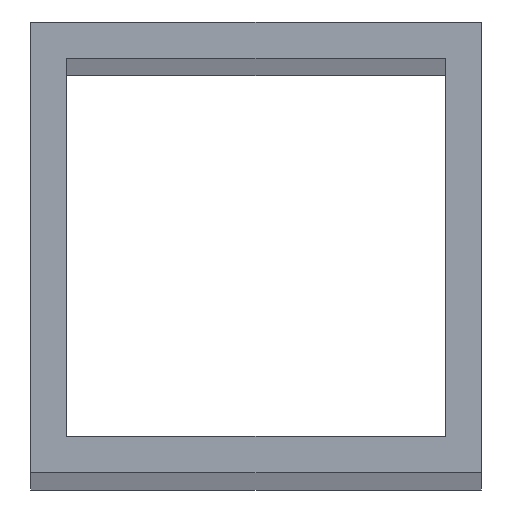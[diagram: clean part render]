
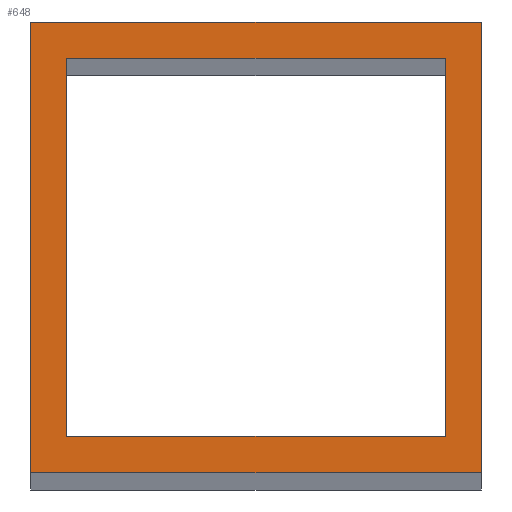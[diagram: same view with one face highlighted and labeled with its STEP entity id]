
A CAD part, top view. The second image highlights one B-rep face of the part: STEP entity #648.
In plain terms, the highlighted planar face has unit normal (0, 0, 1).
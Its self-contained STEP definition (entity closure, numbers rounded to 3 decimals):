
#24 = VERTEX_POINT('',#25);
#25 = CARTESIAN_POINT('',(-25.,-25.,1110.));
#32 = PLANE('',#33);
#33 = AXIS2_PLACEMENT_3D('',#34,#35,#36);
#34 = CARTESIAN_POINT('',(-25.,-25.,0.));
#35 = DIRECTION('',(0.,1.,0.));
#36 = DIRECTION('',(1.,0.,0.));
#44 = PLANE('',#45);
#45 = AXIS2_PLACEMENT_3D('',#46,#47,#48);
#46 = CARTESIAN_POINT('',(-25.,25.,0.));
#47 = DIRECTION('',(1.,0.,-0.));
#48 = DIRECTION('',(0.,-1.,0.));
#56 = EDGE_CURVE('',#24,#57,#59,.T.);
#57 = VERTEX_POINT('',#58);
#58 = CARTESIAN_POINT('',(25.,-25.,1110.));
#59 = SURFACE_CURVE('',#60,(#64,#71),.PCURVE_S1.);
#60 = LINE('',#61,#62);
#61 = CARTESIAN_POINT('',(-25.,-25.,1110.));
#62 = VECTOR('',#63,1.);
#63 = DIRECTION('',(1.,0.,0.));
#64 = PCURVE('',#32,#65);
#65 = DEFINITIONAL_REPRESENTATION('',(#66),#70);
#66 = LINE('',#67,#68);
#67 = CARTESIAN_POINT('',(0.,-1110.));
#68 = VECTOR('',#69,1.);
#69 = DIRECTION('',(1.,0.));
#70 = ( GEOMETRIC_REPRESENTATION_CONTEXT(2) 
PARAMETRIC_REPRESENTATION_CONTEXT() REPRESENTATION_CONTEXT('2D SPACE',''
  ) );
#71 = PCURVE('',#72,#77);
#72 = PLANE('',#73);
#73 = AXIS2_PLACEMENT_3D('',#74,#75,#76);
#74 = CARTESIAN_POINT('',(0.,0.,1110.));
#75 = DIRECTION('',(0.,0.,1.));
#76 = DIRECTION('',(1.,0.,-0.));
#77 = DEFINITIONAL_REPRESENTATION('',(#78),#82);
#78 = LINE('',#79,#80);
#79 = CARTESIAN_POINT('',(-25.,-25.));
#80 = VECTOR('',#81,1.);
#81 = DIRECTION('',(1.,0.));
#82 = ( GEOMETRIC_REPRESENTATION_CONTEXT(2) 
PARAMETRIC_REPRESENTATION_CONTEXT() REPRESENTATION_CONTEXT('2D SPACE',''
  ) );
#100 = PLANE('',#101);
#101 = AXIS2_PLACEMENT_3D('',#102,#103,#104);
#102 = CARTESIAN_POINT('',(25.,-25.,0.));
#103 = DIRECTION('',(-1.,0.,0.));
#104 = DIRECTION('',(0.,1.,0.));
#142 = EDGE_CURVE('',#57,#143,#145,.T.);
#143 = VERTEX_POINT('',#144);
#144 = CARTESIAN_POINT('',(25.,25.,1110.));
#145 = SURFACE_CURVE('',#146,(#150,#157),.PCURVE_S1.);
#146 = LINE('',#147,#148);
#147 = CARTESIAN_POINT('',(25.,-25.,1110.));
#148 = VECTOR('',#149,1.);
#149 = DIRECTION('',(0.,1.,0.));
#150 = PCURVE('',#100,#151);
#151 = DEFINITIONAL_REPRESENTATION('',(#152),#156);
#152 = LINE('',#153,#154);
#153 = CARTESIAN_POINT('',(0.,-1110.));
#154 = VECTOR('',#155,1.);
#155 = DIRECTION('',(1.,0.));
#156 = ( GEOMETRIC_REPRESENTATION_CONTEXT(2) 
PARAMETRIC_REPRESENTATION_CONTEXT() REPRESENTATION_CONTEXT('2D SPACE',''
  ) );
#157 = PCURVE('',#72,#158);
#158 = DEFINITIONAL_REPRESENTATION('',(#159),#163);
#159 = LINE('',#160,#161);
#160 = CARTESIAN_POINT('',(25.,-25.));
#161 = VECTOR('',#162,1.);
#162 = DIRECTION('',(0.,1.));
#163 = ( GEOMETRIC_REPRESENTATION_CONTEXT(2) 
PARAMETRIC_REPRESENTATION_CONTEXT() REPRESENTATION_CONTEXT('2D SPACE',''
  ) );
#181 = PLANE('',#182);
#182 = AXIS2_PLACEMENT_3D('',#183,#184,#185);
#183 = CARTESIAN_POINT('',(25.,25.,0.));
#184 = DIRECTION('',(0.,-1.,0.));
#185 = DIRECTION('',(-1.,0.,0.));
#218 = EDGE_CURVE('',#143,#219,#221,.T.);
#219 = VERTEX_POINT('',#220);
#220 = CARTESIAN_POINT('',(-25.,25.,1110.));
#221 = SURFACE_CURVE('',#222,(#226,#233),.PCURVE_S1.);
#222 = LINE('',#223,#224);
#223 = CARTESIAN_POINT('',(25.,25.,1110.));
#224 = VECTOR('',#225,1.);
#225 = DIRECTION('',(-1.,0.,0.));
#226 = PCURVE('',#181,#227);
#227 = DEFINITIONAL_REPRESENTATION('',(#228),#232);
#228 = LINE('',#229,#230);
#229 = CARTESIAN_POINT('',(0.,-1110.));
#230 = VECTOR('',#231,1.);
#231 = DIRECTION('',(1.,0.));
#232 = ( GEOMETRIC_REPRESENTATION_CONTEXT(2) 
PARAMETRIC_REPRESENTATION_CONTEXT() REPRESENTATION_CONTEXT('2D SPACE',''
  ) );
#233 = PCURVE('',#72,#234);
#234 = DEFINITIONAL_REPRESENTATION('',(#235),#239);
#235 = LINE('',#236,#237);
#236 = CARTESIAN_POINT('',(25.,25.));
#237 = VECTOR('',#238,1.);
#238 = DIRECTION('',(-1.,0.));
#239 = ( GEOMETRIC_REPRESENTATION_CONTEXT(2) 
PARAMETRIC_REPRESENTATION_CONTEXT() REPRESENTATION_CONTEXT('2D SPACE',''
  ) );
#289 = EDGE_CURVE('',#219,#24,#290,.T.);
#290 = SURFACE_CURVE('',#291,(#295,#302),.PCURVE_S1.);
#291 = LINE('',#292,#293);
#292 = CARTESIAN_POINT('',(-25.,25.,1110.));
#293 = VECTOR('',#294,1.);
#294 = DIRECTION('',(0.,-1.,0.));
#295 = PCURVE('',#44,#296);
#296 = DEFINITIONAL_REPRESENTATION('',(#297),#301);
#297 = LINE('',#298,#299);
#298 = CARTESIAN_POINT('',(0.,-1110.));
#299 = VECTOR('',#300,1.);
#300 = DIRECTION('',(1.,0.));
#301 = ( GEOMETRIC_REPRESENTATION_CONTEXT(2) 
PARAMETRIC_REPRESENTATION_CONTEXT() REPRESENTATION_CONTEXT('2D SPACE',''
  ) );
#302 = PCURVE('',#72,#303);
#303 = DEFINITIONAL_REPRESENTATION('',(#304),#308);
#304 = LINE('',#305,#306);
#305 = CARTESIAN_POINT('',(-25.,25.));
#306 = VECTOR('',#307,1.);
#307 = DIRECTION('',(0.,-1.));
#308 = ( GEOMETRIC_REPRESENTATION_CONTEXT(2) 
PARAMETRIC_REPRESENTATION_CONTEXT() REPRESENTATION_CONTEXT('2D SPACE',''
  ) );
#338 = VERTEX_POINT('',#339);
#339 = CARTESIAN_POINT('',(-21.,-21.,1110.));
#346 = PLANE('',#347);
#347 = AXIS2_PLACEMENT_3D('',#348,#349,#350);
#348 = CARTESIAN_POINT('',(-21.,-21.,0.));
#349 = DIRECTION('',(0.,1.,0.));
#350 = DIRECTION('',(1.,0.,0.));
#358 = PLANE('',#359);
#359 = AXIS2_PLACEMENT_3D('',#360,#361,#362);
#360 = CARTESIAN_POINT('',(-21.,21.,0.));
#361 = DIRECTION('',(1.,0.,-0.));
#362 = DIRECTION('',(0.,-1.,0.));
#370 = EDGE_CURVE('',#338,#371,#373,.T.);
#371 = VERTEX_POINT('',#372);
#372 = CARTESIAN_POINT('',(21.,-21.,1110.));
#373 = SURFACE_CURVE('',#374,(#378,#385),.PCURVE_S1.);
#374 = LINE('',#375,#376);
#375 = CARTESIAN_POINT('',(-21.,-21.,1110.));
#376 = VECTOR('',#377,1.);
#377 = DIRECTION('',(1.,0.,0.));
#378 = PCURVE('',#346,#379);
#379 = DEFINITIONAL_REPRESENTATION('',(#380),#384);
#380 = LINE('',#381,#382);
#381 = CARTESIAN_POINT('',(0.,-1110.));
#382 = VECTOR('',#383,1.);
#383 = DIRECTION('',(1.,0.));
#384 = ( GEOMETRIC_REPRESENTATION_CONTEXT(2) 
PARAMETRIC_REPRESENTATION_CONTEXT() REPRESENTATION_CONTEXT('2D SPACE',''
  ) );
#385 = PCURVE('',#72,#386);
#386 = DEFINITIONAL_REPRESENTATION('',(#387),#391);
#387 = LINE('',#388,#389);
#388 = CARTESIAN_POINT('',(-21.,-21.));
#389 = VECTOR('',#390,1.);
#390 = DIRECTION('',(1.,0.));
#391 = ( GEOMETRIC_REPRESENTATION_CONTEXT(2) 
PARAMETRIC_REPRESENTATION_CONTEXT() REPRESENTATION_CONTEXT('2D SPACE',''
  ) );
#409 = PLANE('',#410);
#410 = AXIS2_PLACEMENT_3D('',#411,#412,#413);
#411 = CARTESIAN_POINT('',(21.,-21.,0.));
#412 = DIRECTION('',(-1.,0.,0.));
#413 = DIRECTION('',(0.,1.,0.));
#446 = EDGE_CURVE('',#371,#447,#449,.T.);
#447 = VERTEX_POINT('',#448);
#448 = CARTESIAN_POINT('',(21.,21.,1110.));
#449 = SURFACE_CURVE('',#450,(#454,#461),.PCURVE_S1.);
#450 = LINE('',#451,#452);
#451 = CARTESIAN_POINT('',(21.,-21.,1110.));
#452 = VECTOR('',#453,1.);
#453 = DIRECTION('',(0.,1.,0.));
#454 = PCURVE('',#409,#455);
#455 = DEFINITIONAL_REPRESENTATION('',(#456),#460);
#456 = LINE('',#457,#458);
#457 = CARTESIAN_POINT('',(0.,-1110.));
#458 = VECTOR('',#459,1.);
#459 = DIRECTION('',(1.,0.));
#460 = ( GEOMETRIC_REPRESENTATION_CONTEXT(2) 
PARAMETRIC_REPRESENTATION_CONTEXT() REPRESENTATION_CONTEXT('2D SPACE',''
  ) );
#461 = PCURVE('',#72,#462);
#462 = DEFINITIONAL_REPRESENTATION('',(#463),#467);
#463 = LINE('',#464,#465);
#464 = CARTESIAN_POINT('',(21.,-21.));
#465 = VECTOR('',#466,1.);
#466 = DIRECTION('',(0.,1.));
#467 = ( GEOMETRIC_REPRESENTATION_CONTEXT(2) 
PARAMETRIC_REPRESENTATION_CONTEXT() REPRESENTATION_CONTEXT('2D SPACE',''
  ) );
#485 = PLANE('',#486);
#486 = AXIS2_PLACEMENT_3D('',#487,#488,#489);
#487 = CARTESIAN_POINT('',(21.,21.,0.));
#488 = DIRECTION('',(0.,-1.,0.));
#489 = DIRECTION('',(-1.,0.,0.));
#522 = EDGE_CURVE('',#447,#523,#525,.T.);
#523 = VERTEX_POINT('',#524);
#524 = CARTESIAN_POINT('',(-21.,21.,1110.));
#525 = SURFACE_CURVE('',#526,(#530,#537),.PCURVE_S1.);
#526 = LINE('',#527,#528);
#527 = CARTESIAN_POINT('',(21.,21.,1110.));
#528 = VECTOR('',#529,1.);
#529 = DIRECTION('',(-1.,0.,0.));
#530 = PCURVE('',#485,#531);
#531 = DEFINITIONAL_REPRESENTATION('',(#532),#536);
#532 = LINE('',#533,#534);
#533 = CARTESIAN_POINT('',(0.,-1110.));
#534 = VECTOR('',#535,1.);
#535 = DIRECTION('',(1.,0.));
#536 = ( GEOMETRIC_REPRESENTATION_CONTEXT(2) 
PARAMETRIC_REPRESENTATION_CONTEXT() REPRESENTATION_CONTEXT('2D SPACE',''
  ) );
#537 = PCURVE('',#72,#538);
#538 = DEFINITIONAL_REPRESENTATION('',(#539),#543);
#539 = LINE('',#540,#541);
#540 = CARTESIAN_POINT('',(21.,21.));
#541 = VECTOR('',#542,1.);
#542 = DIRECTION('',(-1.,0.));
#543 = ( GEOMETRIC_REPRESENTATION_CONTEXT(2) 
PARAMETRIC_REPRESENTATION_CONTEXT() REPRESENTATION_CONTEXT('2D SPACE',''
  ) );
#593 = EDGE_CURVE('',#523,#338,#594,.T.);
#594 = SURFACE_CURVE('',#595,(#599,#606),.PCURVE_S1.);
#595 = LINE('',#596,#597);
#596 = CARTESIAN_POINT('',(-21.,21.,1110.));
#597 = VECTOR('',#598,1.);
#598 = DIRECTION('',(0.,-1.,0.));
#599 = PCURVE('',#358,#600);
#600 = DEFINITIONAL_REPRESENTATION('',(#601),#605);
#601 = LINE('',#602,#603);
#602 = CARTESIAN_POINT('',(0.,-1110.));
#603 = VECTOR('',#604,1.);
#604 = DIRECTION('',(1.,0.));
#605 = ( GEOMETRIC_REPRESENTATION_CONTEXT(2) 
PARAMETRIC_REPRESENTATION_CONTEXT() REPRESENTATION_CONTEXT('2D SPACE',''
  ) );
#606 = PCURVE('',#72,#607);
#607 = DEFINITIONAL_REPRESENTATION('',(#608),#612);
#608 = LINE('',#609,#610);
#609 = CARTESIAN_POINT('',(-21.,21.));
#610 = VECTOR('',#611,1.);
#611 = DIRECTION('',(0.,-1.));
#612 = ( GEOMETRIC_REPRESENTATION_CONTEXT(2) 
PARAMETRIC_REPRESENTATION_CONTEXT() REPRESENTATION_CONTEXT('2D SPACE',''
  ) );
#648 = ADVANCED_FACE('',(#649,#655),#72,.T.);
#649 = FACE_BOUND('',#650,.T.);
#650 = EDGE_LOOP('',(#651,#652,#653,#654));
#651 = ORIENTED_EDGE('',*,*,#56,.T.);
#652 = ORIENTED_EDGE('',*,*,#142,.T.);
#653 = ORIENTED_EDGE('',*,*,#218,.T.);
#654 = ORIENTED_EDGE('',*,*,#289,.T.);
#655 = FACE_BOUND('',#656,.F.);
#656 = EDGE_LOOP('',(#657,#658,#659,#660));
#657 = ORIENTED_EDGE('',*,*,#370,.T.);
#658 = ORIENTED_EDGE('',*,*,#446,.T.);
#659 = ORIENTED_EDGE('',*,*,#522,.T.);
#660 = ORIENTED_EDGE('',*,*,#593,.T.);
